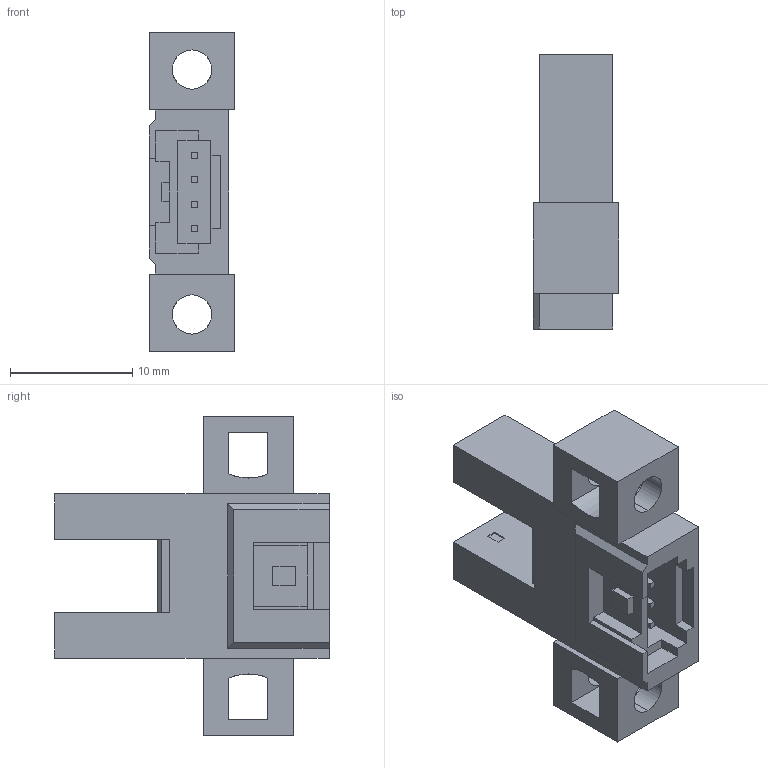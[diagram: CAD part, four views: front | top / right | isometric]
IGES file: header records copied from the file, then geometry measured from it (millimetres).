
Start section: SolidWorks IGES file using analytic representation for surfaces
Global section: file name: C:\catalog\pm-k65.IGS; native system: SolidWorks 2010; preprocessor: SolidWorks 2010; author: C0278; date: 150807.164249; units: millimetre
Bounding box: 7 x 22.4 x 26 mm (x, y, z)
Surface area: 1763.9 mm2 (no closed solid volume)
Topology: 0 solids, 0 shells, 127 faces, 928 edges, 928 vertices
Faces by surface type: bspline 117, revolution 10
